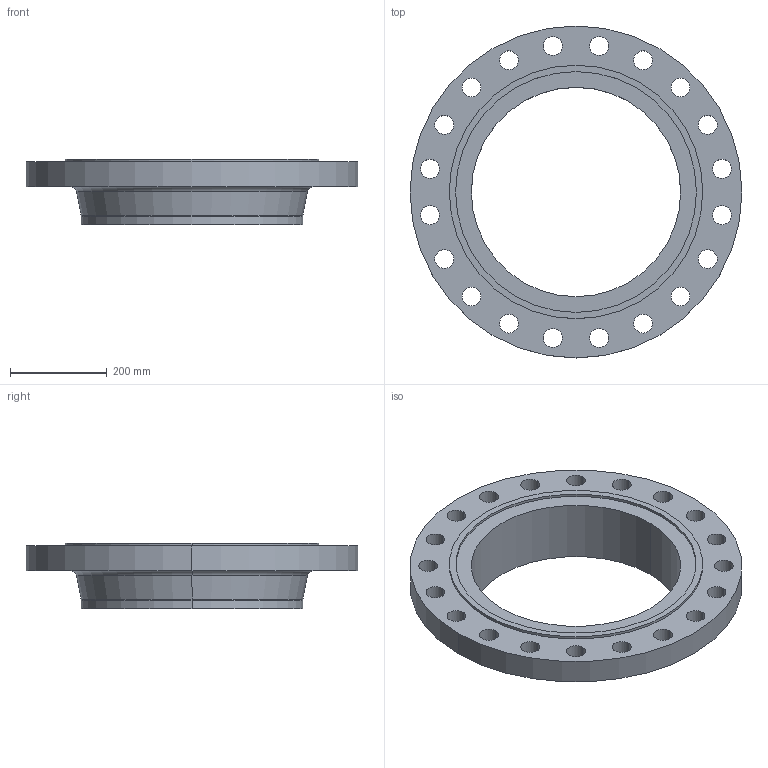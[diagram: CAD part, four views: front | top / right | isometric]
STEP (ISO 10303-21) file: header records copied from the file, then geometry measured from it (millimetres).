
FILE_DESCRIPTION (( 'STEP AP214' ), '1' );
FILE_NAME ('PN40 DN450 Type 11 - Type C Face.STEP', '2018-12-29T04:56:15', ( '' ), ( '' ), 'SwSTEP 2.0', 'SolidWorks 2019', '' );
FILE_SCHEMA (( 'AUTOMOTIVE_DESIGN' ));
Length unit declared in the file: millimetre
Products named in the file (1): PN40 DN450 Type 11 - Type C Face
Bounding box: 685 x 685 x 135 mm (x, y, z)
Volume: 12207893.6 mm3; surface area: 920397.2 mm2
Topology: 1 solids, 1 shells, 61 faces, 162 edges, 106 vertices
Faces by surface type: cylinder 50, plane 5, torus 4, cone 2
Entity records: 2076 total; most frequent: DIRECTION 396, CARTESIAN_POINT 330, ORIENTED_EDGE 324, AXIS2_PLACEMENT_3D 172, EDGE_CURVE 162, CIRCLE 110, VERTEX_POINT 106, EDGE_LOOP 106
